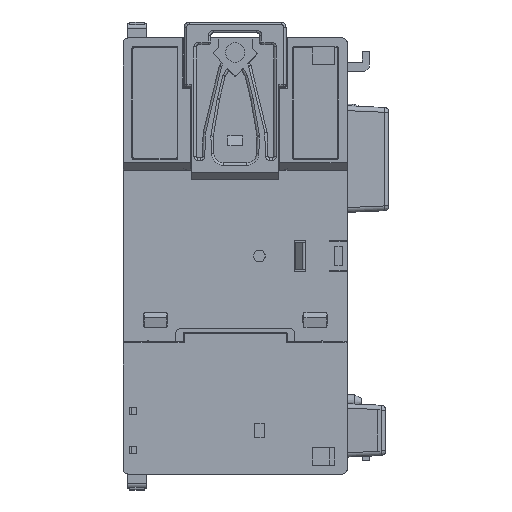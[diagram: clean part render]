
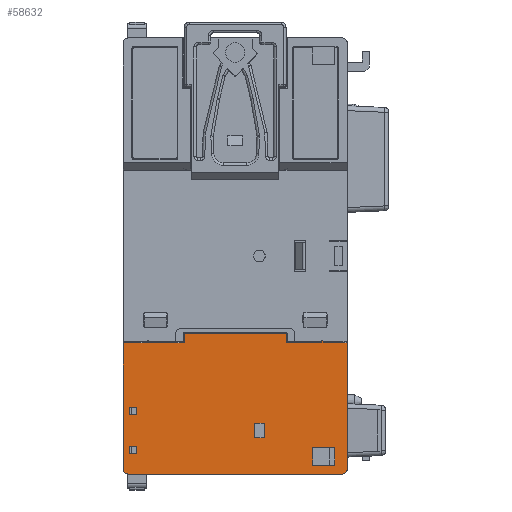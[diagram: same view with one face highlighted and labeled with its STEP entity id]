
A CAD part, front view. The second image highlights one B-rep face of the part: STEP entity #58632.
In plain terms, the highlighted planar face has unit normal (0, -1, 0).
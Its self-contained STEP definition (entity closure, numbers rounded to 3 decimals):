
#6087=DIRECTION('',(0.,0.,-1.));
#6088=VECTOR('',#6087,26.05);
#6089=CARTESIAN_POINT('',(23.1,0.,-17.95));
#6090=LINE('',#6089,#6088);
#6094=DIRECTION('',(-1.,0.,0.));
#6095=VECTOR('',#6094,44.2);
#6096=CARTESIAN_POINT('',(22.1,0.,-45.));
#6097=LINE('',#6096,#6095);
#6101=DIRECTION('',(0.,0.,1.));
#6102=VECTOR('',#6101,26.05);
#6103=CARTESIAN_POINT('',(-23.1,0.,-44.));
#6104=LINE('',#6103,#6102);
#6150=DIRECTION('',(0.,0.,1.));
#6151=VECTOR('',#6150,1.5);
#6152=CARTESIAN_POINT('',(-21.8,0.,-40.75));
#6153=LINE('',#6152,#6151);
#6157=DIRECTION('',(-1.,0.,0.));
#6158=VECTOR('',#6157,1.5);
#6159=CARTESIAN_POINT('',(-20.3,0.,-40.75));
#6160=LINE('',#6159,#6158);
#6164=DIRECTION('',(0.,0.,-1.));
#6165=VECTOR('',#6164,1.5);
#6166=CARTESIAN_POINT('',(-20.3,0.,-39.25));
#6167=LINE('',#6166,#6165);
#6171=DIRECTION('',(1.,0.,0.));
#6172=VECTOR('',#6171,1.5);
#6173=CARTESIAN_POINT('',(-21.8,0.,-39.25));
#6174=LINE('',#6173,#6172);
#6178=DIRECTION('',(0.,0.,1.));
#6179=VECTOR('',#6178,1.5);
#6180=CARTESIAN_POINT('',(-21.8,0.,-32.75));
#6181=LINE('',#6180,#6179);
#6185=DIRECTION('',(-1.,0.,0.));
#6186=VECTOR('',#6185,1.5);
#6187=CARTESIAN_POINT('',(-20.3,0.,-32.75));
#6188=LINE('',#6187,#6186);
#6192=DIRECTION('',(0.,0.,-1.));
#6193=VECTOR('',#6192,1.5);
#6194=CARTESIAN_POINT('',(-20.3,0.,-31.25));
#6195=LINE('',#6194,#6193);
#6199=DIRECTION('',(1.,0.,0.));
#6200=VECTOR('',#6199,1.5);
#6201=CARTESIAN_POINT('',(-21.8,0.,-31.25));
#6202=LINE('',#6201,#6200);
#6206=DIRECTION('',(0.,0.,1.));
#6207=VECTOR('',#6206,3.7);
#6208=CARTESIAN_POINT('',(20.55,0.,-43.2));
#6209=LINE('',#6208,#6207);
#6213=DIRECTION('',(-1.,0.,0.));
#6214=VECTOR('',#6213,4.55);
#6215=CARTESIAN_POINT('',(20.55,0.,-39.5));
#6216=LINE('',#6215,#6214);
#6220=DIRECTION('',(0.,0.,-1.));
#6221=VECTOR('',#6220,3.7);
#6222=CARTESIAN_POINT('',(16.,0.,-39.5));
#6223=LINE('',#6222,#6221);
#6227=DIRECTION('',(1.,0.,0.));
#6228=VECTOR('',#6227,4.55);
#6229=CARTESIAN_POINT('',(16.,0.,-43.2));
#6230=LINE('',#6229,#6228);
#6241=DIRECTION('',(0.,0.,1.));
#6242=VECTOR('',#6241,3.);
#6243=CARTESIAN_POINT('',(4.,0.,-37.5));
#6244=LINE('',#6243,#6242);
#6248=DIRECTION('',(-1.,0.,0.));
#6249=VECTOR('',#6248,2.);
#6250=CARTESIAN_POINT('',(6.,0.,-37.5));
#6251=LINE('',#6250,#6249);
#6255=DIRECTION('',(0.,0.,-1.));
#6256=VECTOR('',#6255,3.);
#6257=CARTESIAN_POINT('',(6.,0.,-34.5));
#6258=LINE('',#6257,#6256);
#6262=DIRECTION('',(1.,0.,0.));
#6263=VECTOR('',#6262,2.);
#6264=CARTESIAN_POINT('',(4.,0.,-34.5));
#6265=LINE('',#6264,#6263);
#6269=DIRECTION('',(-1.,0.,0.));
#6270=VECTOR('',#6269,7.3);
#6271=CARTESIAN_POINT('',(17.85,0.,-17.95));
#6272=LINE('',#6271,#6270);
#6294=DIRECTION('',(0.,0.,1.));
#6295=VECTOR('',#6294,1.95);
#6296=CARTESIAN_POINT('',(10.55,0.,-17.95));
#6297=LINE('',#6296,#6295);
#6326=DIRECTION('',(-1.,0.,0.));
#6327=VECTOR('',#6326,21.1);
#6328=CARTESIAN_POINT('',(10.55,0.,-16.));
#6329=LINE('',#6328,#6327);
#6356=DIRECTION('',(0.,0.,-1.));
#6357=VECTOR('',#6356,1.95);
#6358=CARTESIAN_POINT('',(-10.55,0.,-16.));
#6359=LINE('',#6358,#6357);
#6395=DIRECTION('',(-1.,0.,0.));
#6396=VECTOR('',#6395,7.3);
#6397=CARTESIAN_POINT('',(-10.55,0.,-17.95));
#6398=LINE('',#6397,#6396);
#6494=DIRECTION('',(-1.,0.,0.));
#6495=VECTOR('',#6494,4.95);
#6496=CARTESIAN_POINT('',(-18.15,0.,-17.95));
#6497=LINE('',#6496,#6495);
#6509=CARTESIAN_POINT('',(-18.,0.,-17.75));
#6510=DIRECTION('',(0.,-1.,0.));
#6511=DIRECTION('',(0.6,0.,-0.8));
#6512=AXIS2_PLACEMENT_3D('',#6509,#6510,#6511);
#19052=CARTESIAN_POINT('',(-22.1,0.,-44.));
#19053=DIRECTION('',(0.,-1.,0.));
#19054=DIRECTION('',(-1.,0.,0.));
#19055=AXIS2_PLACEMENT_3D('',#19052,#19053,#19054);
#24679=CARTESIAN_POINT('',(22.1,0.,-44.));
#24680=DIRECTION('',(0.,-1.,0.));
#24681=DIRECTION('',(0.,0.,-1.));
#24682=AXIS2_PLACEMENT_3D('',#24679,#24680,#24681);
#29146=DIRECTION('',(-1.,0.,0.));
#29147=VECTOR('',#29146,4.95);
#29148=CARTESIAN_POINT('',(23.1,0.,-17.95));
#29149=LINE('',#29148,#29147);
#29164=CARTESIAN_POINT('',(18.,0.,-17.75));
#29165=DIRECTION('',(0.,-1.,0.));
#29166=DIRECTION('',(0.6,0.,-0.8));
#29167=AXIS2_PLACEMENT_3D('',#29164,#29165,#29166);
#46736=CARTESIAN_POINT('',(22.1,0.,-45.));
#46737=CARTESIAN_POINT('',(23.1,0.,-44.));
#46738=VERTEX_POINT('',#46736);
#46739=VERTEX_POINT('',#46737);
#46740=CARTESIAN_POINT('',(-23.1,0.,-44.));
#46741=CARTESIAN_POINT('',(-22.1,0.,-45.));
#46742=VERTEX_POINT('',#46740);
#46743=VERTEX_POINT('',#46741);
#46864=CARTESIAN_POINT('',(17.85,0.,-17.95));
#46865=CARTESIAN_POINT('',(10.55,0.,-17.95));
#46866=VERTEX_POINT('',#46864);
#46867=VERTEX_POINT('',#46865);
#46872=CARTESIAN_POINT('',(10.55,0.,-16.));
#46873=VERTEX_POINT('',#46872);
#46886=CARTESIAN_POINT('',(-10.55,0.,-16.));
#46887=VERTEX_POINT('',#46886);
#46888=CARTESIAN_POINT('',(-10.55,0.,-17.95));
#46889=VERTEX_POINT('',#46888);
#46894=CARTESIAN_POINT('',(-17.85,0.,-17.95));
#46895=VERTEX_POINT('',#46894);
#46916=CARTESIAN_POINT('',(-18.15,0.,-17.95));
#46917=CARTESIAN_POINT('',(-23.1,0.,-17.95));
#46918=VERTEX_POINT('',#46916);
#46919=VERTEX_POINT('',#46917);
#46924=CARTESIAN_POINT('',(23.1,0.,-17.95));
#46925=VERTEX_POINT('',#46924);
#46926=CARTESIAN_POINT('',(18.15,0.,-17.95));
#46927=VERTEX_POINT('',#46926);
#48336=CARTESIAN_POINT('',(-21.8,0.,-40.75));
#48337=CARTESIAN_POINT('',(-21.8,0.,-39.25));
#48338=VERTEX_POINT('',#48336);
#48339=VERTEX_POINT('',#48337);
#48340=CARTESIAN_POINT('',(-20.3,0.,-39.25));
#48341=VERTEX_POINT('',#48340);
#48342=CARTESIAN_POINT('',(-20.3,0.,-40.75));
#48343=VERTEX_POINT('',#48342);
#48344=CARTESIAN_POINT('',(-21.8,0.,-32.75));
#48345=CARTESIAN_POINT('',(-21.8,0.,-31.25));
#48346=VERTEX_POINT('',#48344);
#48347=VERTEX_POINT('',#48345);
#48348=CARTESIAN_POINT('',(-20.3,0.,-31.25));
#48349=VERTEX_POINT('',#48348);
#48350=CARTESIAN_POINT('',(-20.3,0.,-32.75));
#48351=VERTEX_POINT('',#48350);
#48364=CARTESIAN_POINT('',(16.,0.,-43.2));
#48365=CARTESIAN_POINT('',(20.55,0.,-43.2));
#48366=VERTEX_POINT('',#48364);
#48367=VERTEX_POINT('',#48365);
#48384=CARTESIAN_POINT('',(4.,0.,-37.5));
#48385=CARTESIAN_POINT('',(4.,0.,-34.5));
#48386=VERTEX_POINT('',#48384);
#48387=VERTEX_POINT('',#48385);
#48388=CARTESIAN_POINT('',(6.,0.,-34.5));
#48389=VERTEX_POINT('',#48388);
#48390=CARTESIAN_POINT('',(6.,0.,-37.5));
#48391=VERTEX_POINT('',#48390);
#48484=CARTESIAN_POINT('',(20.55,0.,-39.5));
#48485=VERTEX_POINT('',#48484);
#48486=CARTESIAN_POINT('',(16.,0.,-39.5));
#48487=VERTEX_POINT('',#48486);
#58558=CARTESIAN_POINT('',(0.,0.,0.));
#58559=DIRECTION('',(0.,1.,0.));
#58560=DIRECTION('',(1.,0.,0.));
#58561=AXIS2_PLACEMENT_3D('',#58558,#58559,#58560);
#58562=PLANE('',#58561);
#58564=ORIENTED_EDGE('',*,*,#58563,.F.);
#58566=ORIENTED_EDGE('',*,*,#58565,.F.);
#58568=ORIENTED_EDGE('',*,*,#58567,.F.);
#58570=ORIENTED_EDGE('',*,*,#58569,.T.);
#58572=ORIENTED_EDGE('',*,*,#58571,.F.);
#58574=ORIENTED_EDGE('',*,*,#58573,.T.);
#58576=ORIENTED_EDGE('',*,*,#58575,.F.);
#58577=ORIENTED_EDGE('',*,*,#58422,.T.);
#58579=ORIENTED_EDGE('',*,*,#58578,.F.);
#58581=ORIENTED_EDGE('',*,*,#58580,.F.);
#58583=ORIENTED_EDGE('',*,*,#58582,.F.);
#58585=ORIENTED_EDGE('',*,*,#58584,.F.);
#58587=ORIENTED_EDGE('',*,*,#58586,.F.);
#58589=ORIENTED_EDGE('',*,*,#58588,.F.);
#58590=EDGE_LOOP('',(#58564,#58566,#58568,#58570,#58572,#58574,#58576,#58577,
#58579,#58581,#58583,#58585,#58587,#58589));
#58591=FACE_OUTER_BOUND('',#58590,.F.);
#58593=ORIENTED_EDGE('',*,*,#58592,.F.);
#58595=ORIENTED_EDGE('',*,*,#58594,.F.);
#58597=ORIENTED_EDGE('',*,*,#58596,.F.);
#58599=ORIENTED_EDGE('',*,*,#58598,.F.);
#58600=EDGE_LOOP('',(#58593,#58595,#58597,#58599));
#58601=FACE_BOUND('',#58600,.F.);
#58603=ORIENTED_EDGE('',*,*,#58602,.F.);
#58605=ORIENTED_EDGE('',*,*,#58604,.F.);
#58607=ORIENTED_EDGE('',*,*,#58606,.F.);
#58609=ORIENTED_EDGE('',*,*,#58608,.F.);
#58610=EDGE_LOOP('',(#58603,#58605,#58607,#58609));
#58611=FACE_BOUND('',#58610,.F.);
#58613=ORIENTED_EDGE('',*,*,#58612,.T.);
#58615=ORIENTED_EDGE('',*,*,#58614,.T.);
#58617=ORIENTED_EDGE('',*,*,#58616,.T.);
#58619=ORIENTED_EDGE('',*,*,#58618,.T.);
#58620=EDGE_LOOP('',(#58613,#58615,#58617,#58619));
#58621=FACE_BOUND('',#58620,.F.);
#58623=ORIENTED_EDGE('',*,*,#58622,.F.);
#58625=ORIENTED_EDGE('',*,*,#58624,.F.);
#58627=ORIENTED_EDGE('',*,*,#58626,.F.);
#58629=ORIENTED_EDGE('',*,*,#58628,.F.);
#58630=EDGE_LOOP('',(#58623,#58625,#58627,#58629));
#58631=FACE_BOUND('',#58630,.F.);
#58632=ADVANCED_FACE('',(#58591,#58601,#58611,#58621,#58631),#58562,.F.);
#6513=CIRCLE('',#6512,0.25);
#19056=CIRCLE('',#19055,1.);
#24683=CIRCLE('',#24682,1.);
#29168=CIRCLE('',#29167,0.25);
#58422=EDGE_CURVE('',#46742,#46919,#6104,.T.);
#58563=EDGE_CURVE('',#46866,#46867,#6272,.T.);
#58565=EDGE_CURVE('',#46927,#46866,#29168,.T.);
#58567=EDGE_CURVE('',#46925,#46927,#29149,.T.);
#58569=EDGE_CURVE('',#46925,#46739,#6090,.T.);
#58571=EDGE_CURVE('',#46738,#46739,#24683,.T.);
#58573=EDGE_CURVE('',#46738,#46743,#6097,.T.);
#58575=EDGE_CURVE('',#46742,#46743,#19056,.T.);
#58578=EDGE_CURVE('',#46918,#46919,#6497,.T.);
#58580=EDGE_CURVE('',#46895,#46918,#6513,.T.);
#58582=EDGE_CURVE('',#46889,#46895,#6398,.T.);
#58584=EDGE_CURVE('',#46887,#46889,#6359,.T.);
#58586=EDGE_CURVE('',#46873,#46887,#6329,.T.);
#58588=EDGE_CURVE('',#46867,#46873,#6297,.T.);
#58592=EDGE_CURVE('',#48338,#48339,#6153,.T.);
#58594=EDGE_CURVE('',#48343,#48338,#6160,.T.);
#58596=EDGE_CURVE('',#48341,#48343,#6167,.T.);
#58598=EDGE_CURVE('',#48339,#48341,#6174,.T.);
#58602=EDGE_CURVE('',#48346,#48347,#6181,.T.);
#58604=EDGE_CURVE('',#48351,#48346,#6188,.T.);
#58606=EDGE_CURVE('',#48349,#48351,#6195,.T.);
#58608=EDGE_CURVE('',#48347,#48349,#6202,.T.);
#58612=EDGE_CURVE('',#48367,#48485,#6209,.T.);
#58614=EDGE_CURVE('',#48485,#48487,#6216,.T.);
#58616=EDGE_CURVE('',#48487,#48366,#6223,.T.);
#58618=EDGE_CURVE('',#48366,#48367,#6230,.T.);
#58622=EDGE_CURVE('',#48386,#48387,#6244,.T.);
#58624=EDGE_CURVE('',#48391,#48386,#6251,.T.);
#58626=EDGE_CURVE('',#48389,#48391,#6258,.T.);
#58628=EDGE_CURVE('',#48387,#48389,#6265,.T.);
